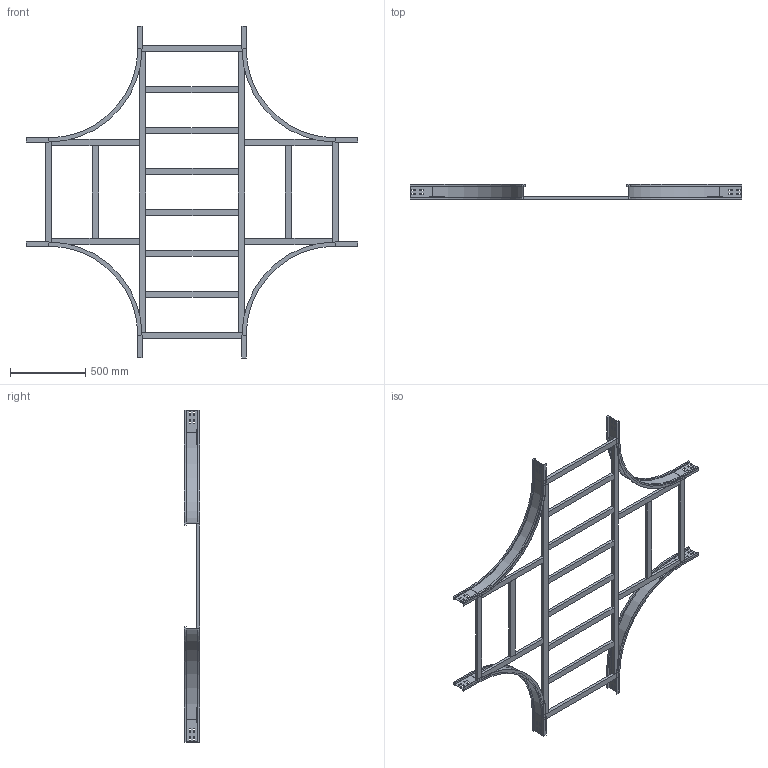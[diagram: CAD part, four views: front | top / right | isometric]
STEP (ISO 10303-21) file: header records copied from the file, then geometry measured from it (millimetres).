
FILE_DESCRIPTION (( 'STEP AP214' ), '1' );
FILE_NAME ('17S6D700.step', '2025-02-21T16:16:44', ( '' ), ( '' ), 'SwSTEP 2.0', 'SolidWorks 2023', '' );
FILE_SCHEMA (( 'AUTOMOTIVE_DESIGN' ));
Length unit declared in the file: millimetre
Products named in the file (7): LONGH.INTERNO 90°_H100_R600; TRAVERSINO_VERT_R600; TRAVERSINO_700; TRAVERSINO_INTERMEDIO_X_R600+700; 17S6D700; TRAVERSINO_COPPIA_700; TRAVERSINO_LONG._R600+700
Assembly tree (22 placements, depth 2):
  17S6D700
    LONGH.INTERNO 90°_H100_R600  x4
    TRAVERSINO_700  x4
    TRAVERSINO_LONG._R600+700  x2
    TRAVERSINO_INTERMEDIO_X_R600+700  x6
    TRAVERSINO_VERT_R600  x4
    TRAVERSINO_COPPIA_700  x2
Bounding box: 2200 x 100 x 2200 mm (x, y, z)
Volume: 13772671.9 mm3; surface area: 3166205 mm2
Topology: 22 solids, 22 shells, 388 faces, 936 edges, 592 vertices
Faces by surface type: plane 364, cylinder 24
Entity records: 3204 total; most frequent: CARTESIAN_POINT 517, DIRECTION 502, ORIENTED_EDGE 480, EDGE_CURVE 240, VECTOR 228, LINE 228, VERTEX_POINT 152, AXIS2_PLACEMENT_3D 137
